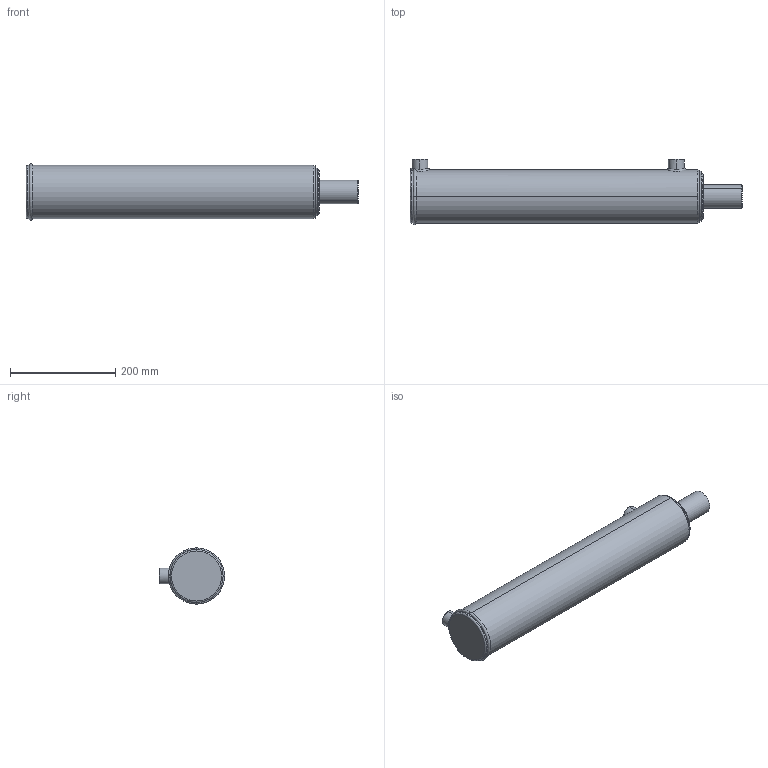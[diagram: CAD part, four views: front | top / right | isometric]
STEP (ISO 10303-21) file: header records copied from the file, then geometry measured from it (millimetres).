
FILE_DESCRIPTION (( 'STEP AP203' ), '1' );
FILE_NAME ('BL350175x457 (18).STEP', '2014-11-24T03:18:26', ( '' ), ( '' ), 'SwSTEP 2.0', 'SolidWorks 2014', '' );
FILE_SCHEMA (( 'CONFIG_CONTROL_DESIGN' ));
Length unit declared in the file: millimetre
Products named in the file (3): BL350175x457 (18); BL body 3.5_3.5x18; Spare_3.5x18
Assembly tree (2 placements, depth 2):
  BL350175x457 (18)
    BL body 3.5_3.5x18
    Spare_3.5x18
Bounding box: 632 x 124.4 x 107.2 mm (x, y, z)
Volume: 4960204.5 mm3; surface area: 316889.8 mm2
Topology: 2 solids, 2 shells, 88 faces, 205 edges, 126 vertices
Faces by surface type: cylinder 32, plane 20, torus 17, bspline 11, cone 8
Entity records: 6022 total; most frequent: CARTESIAN_POINT 3775, DIRECTION 420, ORIENTED_EDGE 402, EDGE_CURVE 201, AXIS2_PLACEMENT_3D 181, VERTEX_POINT 126, EDGE_LOOP 101, CIRCLE 99
